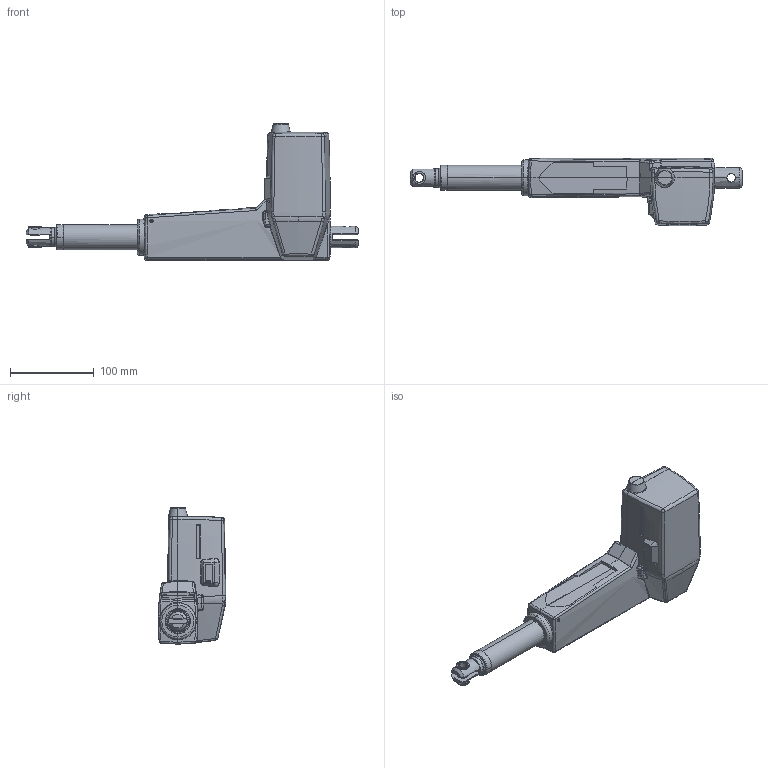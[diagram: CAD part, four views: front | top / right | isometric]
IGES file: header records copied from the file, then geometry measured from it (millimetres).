
Start section:  PTC IGES file: la31v0.igs
Global section: file name: la31v0.igs; native system: Pro/ENGINEER by Parametric Technology Corporation; preprocessor: 2005110; author: KH; organization: Unknown; date: 060215.070053; units: millimetre
Bounding box: 397 x 80.85 x 163.21 mm (x, y, z)
Volume: 1241827.3 mm3; surface area: 100331.9 mm2
Topology: 1 solids, 1 shells, 386 faces, 989 edges, 608 vertices
Faces by surface type: bspline 200, revolution 186
